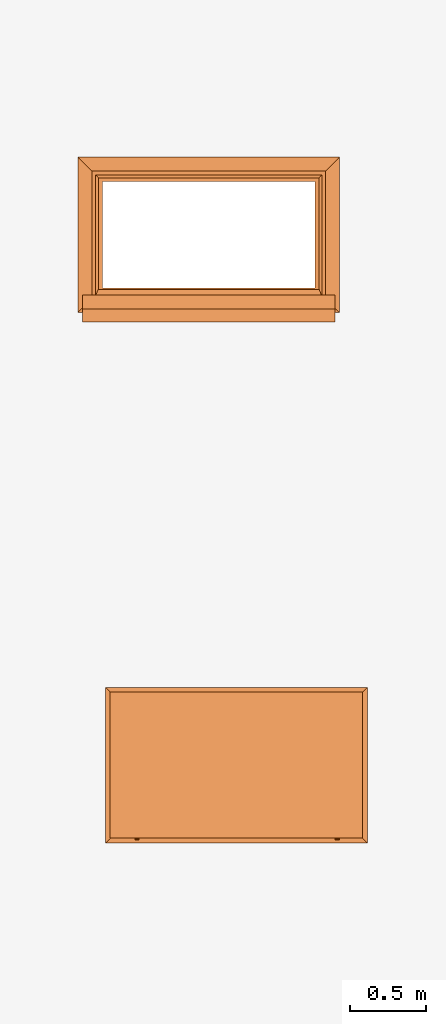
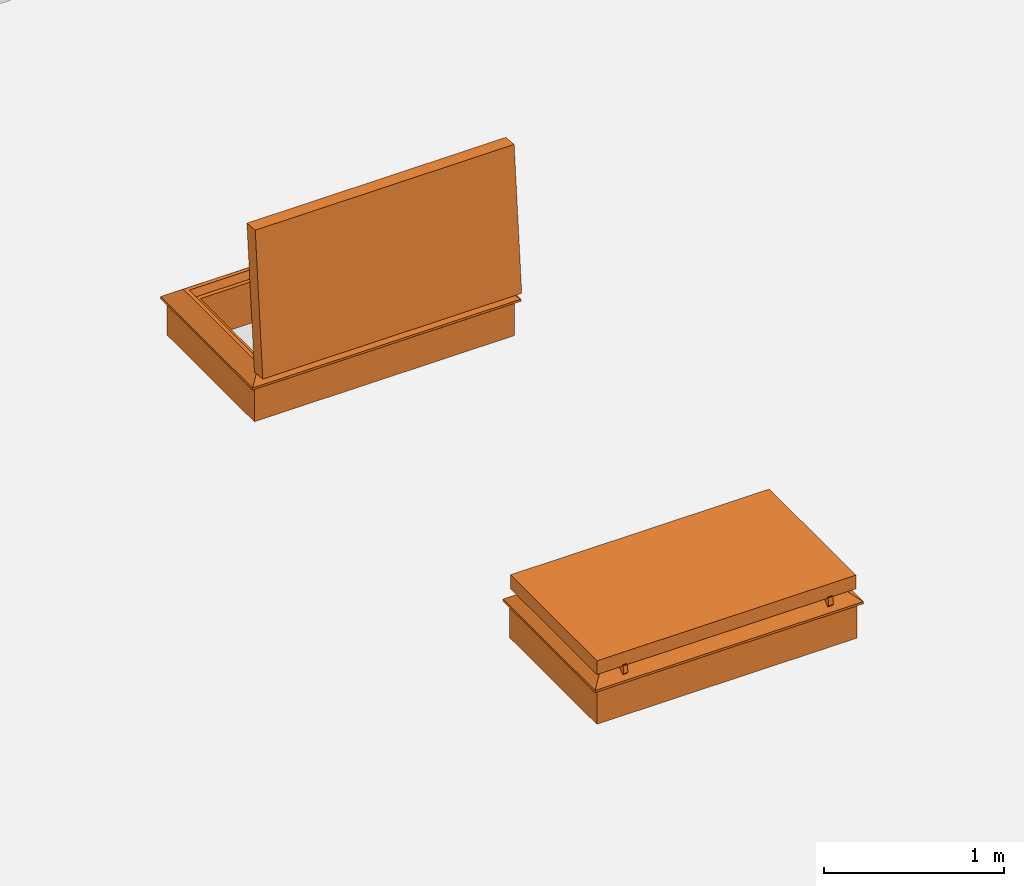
# One storey, part 22 of 28: 2 proxies.
"""IFC2X3 building model written with IfcOpenShell, lengths in millimetres."""

from ifc_helpers import new_model, entity, si_unit, converted_unit, derived_unit, direction, frame, origin, place, context, subcontext, project, spatial, faceted_brep, source, transform, mapped, type_object, type_shapes, element, save


model = new_model("IFC2X3")

# Units and contexts
model_context = context("Model", 3, precision=0.01, world=origin(), true_north=direction((6.12303176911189e-17, 1.0)))
body_context = subcontext(model_context, "Body", "Model", "MODEL_VIEW")
ifc_project = project(units=[si_unit("LENGTHUNIT", "METRE", prefix="MILLI"), si_unit("AREAUNIT", "SQUARE_METRE"), si_unit("VOLUMEUNIT", "CUBIC_METRE"), converted_unit("PLANEANGLEUNIT", "DEGREE", entity("IfcRatioMeasure", 0.0174532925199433), si_unit("PLANEANGLEUNIT", "RADIAN"), dimensions=[0, 0, 0, 0, 0, 0, 0]), si_unit("MASSUNIT", "GRAM", prefix="KILO"), derived_unit("MASSDENSITYUNIT", [(si_unit("MASSUNIT", "GRAM", prefix="KILO"), 1), (si_unit("LENGTHUNIT", "METRE"), -3)]), si_unit("TIMEUNIT", "SECOND"), si_unit("FREQUENCYUNIT", "HERTZ"), si_unit("THERMODYNAMICTEMPERATUREUNIT", "DEGREE_CELSIUS"), derived_unit("THERMALTRANSMITTANCEUNIT", [(si_unit("MASSUNIT", "GRAM", prefix="KILO"), 1), (si_unit("THERMODYNAMICTEMPERATUREUNIT", "KELVIN"), -1), (si_unit("TIMEUNIT", "SECOND"), -3)]), derived_unit("VOLUMETRICFLOWRATEUNIT", [(si_unit("LENGTHUNIT", "METRE"), 3), (si_unit("TIMEUNIT", "SECOND"), -1)]), si_unit("ELECTRICCURRENTUNIT", "AMPERE"), si_unit("ELECTRICVOLTAGEUNIT", "VOLT"), si_unit("POWERUNIT", "WATT"), si_unit("FORCEUNIT", "NEWTON", prefix="KILO"), si_unit("ILLUMINANCEUNIT", "LUX"), si_unit("LUMINOUSFLUXUNIT", "LUMEN"), si_unit("LUMINOUSINTENSITYUNIT", "CANDELA"), derived_unit("USERDEFINED", [(si_unit("MASSUNIT", "GRAM", prefix="KILO"), -1), (si_unit("LENGTHUNIT", "METRE"), -2), (si_unit("TIMEUNIT", "SECOND"), 3), (si_unit("LUMINOUSFLUXUNIT", "LUMEN"), 1)]), derived_unit("LINEARVELOCITYUNIT", [(si_unit("LENGTHUNIT", "METRE"), 1), (si_unit("TIMEUNIT", "SECOND"), -1)]), si_unit("PRESSUREUNIT", "PASCAL"), derived_unit("USERDEFINED", [(si_unit("LENGTHUNIT", "METRE"), -2), (si_unit("MASSUNIT", "GRAM", prefix="KILO"), 1), (si_unit("TIMEUNIT", "SECOND"), -2)])], contexts=[model_context])

# Site, building, storey
site_placement = place(None, origin())
site = spatial("IfcSite", under=ifc_project, at=site_placement, Name="Default", CompositionType="ELEMENT")
building_placement = place(site_placement, origin())
building = spatial("IfcBuilding", under=site, at=building_placement, CompositionType="ELEMENT")
storey_placement = place(building_placement, frame((0.0, 0.0, 4000.0)))
storey = spatial("IfcBuildingStorey", under=building, at=storey_placement, Name="Level 2", CompositionType="ELEMENT", Elevation=4000.0)

# Proxies
building_element_proxy_type_1 = type_object("IfcBuildingElementProxyType", Name="1400 x 700", PredefinedType="NOTDEFINED")
shared_shape_1 = source(origin(), body_context, "Body", "Brep", [
    faceted_brep([(-1499.57464776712, -351.993124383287, 340.652428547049), (-1499.57464776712, -350.619817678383, 341.518171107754), (-1499.57464776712, -349.079207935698, 342.030033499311), (-1499.57464776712, -347.460863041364, 342.158257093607), (-1499.57464776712, -345.858870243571, 341.89538723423), (-1499.57464776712, -344.366366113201, 341.256706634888), (-1499.57464776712, -343.070121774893, 340.279346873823), (-1499.57464776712, -342.045498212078, 339.020129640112), (-1499.57464776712, -341.352064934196, 337.552263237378), (-1499.57464776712, -341.030136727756, 335.961086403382), (-1499.57464776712, -341.098429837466, 334.339106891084), (-1499.57464776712, -340.635094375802, 329.90669213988), (-1499.57464776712, -337.979621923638, 326.327663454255), (-1499.57464776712, -304.11313780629, 313.826813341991), (-1499.57464776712, -350.965266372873, 276.345110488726), (-1499.57464776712, -360.90830222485, 288.773905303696), (-1499.57464776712, -361.276948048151, 290.251026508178), (-1499.57464776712, -361.242166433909, 291.7730570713), (-1499.57464776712, -353.932832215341, 338.078280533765), (-1499.57464776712, -353.119286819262, 339.483138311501), (-1472.20689636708, -337.979621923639, 326.327663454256), (-1472.20689636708, -304.113137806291, 313.826813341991), (-1472.20689636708, -350.965266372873, 276.345110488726), (-1472.20689636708, -360.90830222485, 288.773905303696), (-1489.14512741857, -360.908302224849, 288.773905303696), (-1488.70057290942, -361.276948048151, 290.251026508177), (-1472.20689636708, -361.276948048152, 290.251026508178), (-1472.20689636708, -361.242166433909, 291.7730570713), (-1489.14512741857, -361.242166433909, 291.7730570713), (-1472.20689636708, -353.932832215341, 338.078280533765), (-1472.20689636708, -353.119286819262, 339.483138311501), (-1472.20689636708, -351.993124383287, 340.652428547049), (-1472.20689636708, -350.619817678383, 341.518171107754), (-1472.20689636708, -349.079207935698, 342.030033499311), (-1472.20689636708, -347.460863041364, 342.158257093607), (-1472.20689636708, -345.858870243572, 341.89538723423), (-1472.20689636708, -343.070121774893, 340.279346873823), (-1472.20689636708, -344.366366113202, 341.256706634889), (-1472.20689636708, -342.045498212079, 339.020129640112), (-1472.20689636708, -341.352064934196, 337.552263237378), (-1472.20689636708, -341.030136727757, 335.961086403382), (-1472.20689636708, -341.098429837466, 334.339106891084), (-1472.20689636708, -340.635094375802, 329.90669213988)], [[[0, 1, 2, 3, 4, 5, 6, 7, 8, 9, 10, 11, 12, 13, 14, 15, 16, 17, 18, 19]], [[13, 12, 20, 21]], [[14, 13, 21, 22]], [[14, 22, 23, 24, 15]], [[25, 16, 15, 24, 23, 26]], [[25, 26, 27, 28, 17, 16]], [[18, 17, 28, 27, 29]], [[30, 19, 18, 29]], [[31, 0, 19, 30]], [[2, 1, 32, 33]], [[31, 32, 1, 0]], [[3, 2, 33, 34]], [[4, 3, 34, 35]], [[36, 6, 5, 37]], [[38, 7, 6, 36]], [[9, 8, 39, 40]], [[38, 39, 8, 7]], [[10, 9, 40, 41]], [[37, 5, 4, 35]], [[41, 42, 11, 10]], [[20, 12, 11, 42]], [[22, 21, 20, 42, 41, 40, 39, 38, 36, 37, 35, 34, 33, 32, 31, 30, 29, 27, 26, 23]]]),
    faceted_brep([(-182.337074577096, -304.113137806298, 313.826813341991), (-182.337074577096, -337.979621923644, 326.327663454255), (-152.350888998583, -337.979621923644, 326.327663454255), (-152.350888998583, -304.113137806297, 313.826813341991), (-182.337074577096, -350.96526637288, 276.345110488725), (-152.350888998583, -350.965266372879, 276.345110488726), (-182.337074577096, -360.908302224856, 288.773905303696), (-152.350888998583, -360.908302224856, 288.773905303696), (-161.478030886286, -360.908302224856, 288.773905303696), (-171.90755260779, -360.908302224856, 288.773905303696), (-152.350888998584, -361.276948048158, 290.251026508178), (-182.337074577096, -361.276948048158, 290.251026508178), (-162.780411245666, -361.242166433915, 291.7730570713), (-152.350888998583, -361.242166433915, 291.7730570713), (-173.209933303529, -361.242166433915, 291.7730570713), (-182.337074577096, -361.242166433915, 291.7730570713), (-166.692795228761, -361.28220209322, 290.300156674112), (-182.337074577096, -353.932832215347, 338.078280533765), (-152.350888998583, -353.932832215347, 338.078280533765), (-152.350888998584, -353.119286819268, 339.483138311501), (-182.337074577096, -353.119286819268, 339.483138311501), (-152.350888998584, -351.993124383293, 340.652428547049), (-182.337074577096, -351.993124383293, 340.652428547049), (-182.337074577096, -349.079207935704, 342.030033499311), (-182.337074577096, -350.619817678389, 341.518171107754), (-152.350888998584, -350.619817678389, 341.518171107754), (-152.350888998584, -349.079207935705, 342.030033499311), (-182.337074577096, -347.460863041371, 342.158257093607), (-152.350888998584, -347.460863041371, 342.158257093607), (-182.337074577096, -345.858870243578, 341.89538723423), (-152.350888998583, -345.858870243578, 341.89538723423), (-152.350888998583, -344.366366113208, 341.256706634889), (-182.337074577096, -344.366366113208, 341.256706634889), (-152.350888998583, -343.070121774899, 340.279346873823), (-182.337074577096, -343.070121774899, 340.279346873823), (-182.337074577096, -341.352064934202, 337.552263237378), (-182.337074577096, -342.045498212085, 339.020129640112), (-152.350888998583, -342.045498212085, 339.020129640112), (-152.350888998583, -341.352064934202, 337.552263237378), (-182.337074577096, -341.030136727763, 335.961086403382), (-152.350888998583, -341.030136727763, 335.961086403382), (-182.337074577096, -341.098429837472, 334.339106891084), (-152.350888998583, -341.098429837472, 334.339106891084), (-152.350888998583, -340.635094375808, 329.90669213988), (-182.337074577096, -340.635094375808, 329.90669213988)], [[[0, 1, 2, 3]], [[4, 0, 3, 5]], [[6, 4, 5, 7, 8, 9]], [[10, 8, 7]], [[11, 6, 9]], [[12, 10, 13]], [[14, 15, 11]], [[8, 10, 16]], [[16, 11, 9]], [[16, 9, 8]], [[14, 11, 16]], [[10, 12, 16]], [[12, 14, 16]], [[17, 15, 14, 12, 13, 18]], [[19, 20, 17, 18]], [[21, 22, 20, 19]], [[23, 24, 25, 26]], [[21, 25, 24, 22]], [[27, 23, 26, 28]], [[29, 27, 28, 30]], [[31, 32, 29, 30]], [[33, 34, 32, 31]], [[35, 36, 37, 38]], [[33, 37, 36, 34]], [[39, 35, 38, 40]], [[41, 39, 40, 42]], [[42, 43, 44, 41]], [[2, 1, 44, 43]], [[43, 42, 40, 38, 37, 33, 31, 30, 28, 26, 25, 21, 19, 18, 13, 10, 7, 5, 3, 2]], [[36, 35, 39, 41, 44, 1, 0, 4, 6, 11, 15, 17, 20, 22, 24, 23, 27, 29, 32, 34]]]),
    faceted_brep([(-61.2697623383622, 553.447095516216, 328.0), (30.7302376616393, 645.447095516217, 254.399999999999), (-1693.26976233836, 645.447095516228, 254.4), (-1601.26976233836, 553.447095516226, 328.0), (-105.269762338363, 509.447095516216, 282.0), (-85.7439207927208, 528.972937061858, 328.0), (-1576.795603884, 528.972937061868, 328.0), (-1557.26976233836, 509.447095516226, 282.0), (-131.269762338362, 483.447095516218, 0.0), (-131.269762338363, 483.447095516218, 282.0), (-1531.26976233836, 483.447095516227, 282.0), (-1531.26976233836, 483.447095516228, 0.0), (4.73023766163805, 619.447095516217, 240.0), (4.73023766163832, 619.447095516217, 0.0), (-1667.26976233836, 619.447095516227, 0.0), (-1667.26976233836, 619.447095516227, 240.0), (30.7302376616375, 645.447095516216, 240.0), (-1693.26976233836, 645.447095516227, 240.0), (-1693.26976233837, -378.552904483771, 254.4), (-1601.26976233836, -286.552904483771, 328.0), (-1576.79560388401, -262.078746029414, 328.0), (-1557.26976233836, -242.552904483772, 282.0), (-1531.26976233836, -216.552904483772, 282.0), (-1531.26976233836, -216.552904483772, 0.0), (-1667.26976233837, -352.552904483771, 0.0), (-1667.26976233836, -352.552904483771, 240.0), (-1693.26976233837, -378.552904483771, 240.0), (30.7302376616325, -378.552904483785, 254.4), (-61.2697623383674, -286.552904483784, 328.0), (-85.743920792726, -262.078746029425, 328.0), (-105.269762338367, -242.552904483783, 282.0), (-131.269762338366, -216.552904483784, 282.0), (-131.269762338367, -216.552904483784, 0.0), (4.73023766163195, -352.552904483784, 0.0), (4.73023766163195, -352.552904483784, 240.0), (30.7302376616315, -378.552904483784, 240.0)], [[[0, 1, 2, 3]], [[4, 5, 6, 7]], [[8, 9, 10, 11]], [[12, 13, 14, 15]], [[1, 16, 17, 2]], [[3, 2, 18, 19]], [[7, 6, 20, 21]], [[11, 10, 22, 23]], [[15, 14, 24, 25]], [[2, 17, 26, 18]], [[19, 18, 27, 28]], [[21, 20, 29, 30]], [[23, 22, 31, 32]], [[25, 24, 33, 34]], [[18, 26, 35, 27]], [[28, 27, 1, 0]], [[3, 19, 28, 0], [5, 29, 20, 6]], [[30, 29, 5, 4]], [[7, 21, 30, 4], [9, 31, 22, 10]], [[32, 31, 9, 8]], [[11, 23, 32, 8], [13, 33, 24, 14]], [[34, 33, 13, 12]], [[15, 25, 34, 12], [16, 35, 26, 17]], [[27, 35, 16, 1]]], outer=[[True], [True], [True], [True], [True], [True], [True], [True], [True], [True], [True], [True], [True], [True], [True], [True], [True, False], [True], [True, False], [True], [False, True], [True], [False, True], [True]]),
    faceted_brep([(-1534.26693391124, -367.286388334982, 1173.32805698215), (-1534.26693391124, -428.818342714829, 470.014600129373), (-128.272590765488, -428.81834271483, 470.014600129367), (-128.272590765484, -367.286388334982, 1173.32805698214), (-1534.26693391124, -228.416847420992, 1161.17854644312), (-128.272590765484, -228.416847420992, 1161.17854644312), (-128.272590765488, -289.94880180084, 457.865089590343), (-1534.26693391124, -289.94880180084, 457.86508959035)], [[[0, 1, 2, 3]], [[4, 5, 6, 7]], [[1, 0, 4, 7]], [[2, 1, 7, 6]], [[3, 2, 6, 5]], [[0, 3, 5, 4]]]),
    faceted_brep([(-128.272590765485, -228.416847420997, 1161.17854644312), (-128.272590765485, -367.286388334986, 1173.32805698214), (-1534.26693391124, -367.286388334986, 1173.32805698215), (-1534.26693391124, -228.416847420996, 1161.17854644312), (-85.2725907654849, -270.892584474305, 1208.05894492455), (-102.872590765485, -226.203091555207, 1186.48189177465), (-1559.66693391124, -226.203091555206, 1186.48189177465), (-1577.26693391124, -270.892584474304, 1208.05894492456), (0.727409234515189, -356.043297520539, 1301.83717303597), (0.727409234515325, -263.397190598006, 1293.73168896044), (-1663.26693391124, -263.397190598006, 1293.73168896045), (-1663.26693391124, -356.043297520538, 1301.83717303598), (-1534.26693391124, -428.818342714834, 470.014600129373), (-1534.26693391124, -289.948801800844, 457.865089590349), (-1559.66693391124, -292.162557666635, 432.561744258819), (-1577.26693391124, -339.919932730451, 419.072744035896), (-1663.26693391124, -347.41532660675, 333.400000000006), (-1663.26693391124, -440.061433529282, 341.505484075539), (-128.27259076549, -428.818342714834, 470.014600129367), (-128.27259076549, -289.948801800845, 457.865089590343), (-102.87259076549, -292.162557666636, 432.561744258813), (-85.2725907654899, -339.919932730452, 419.07274403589), (0.727409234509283, -347.41532660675, 333.399999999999), (0.727409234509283, -440.061433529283, 341.505484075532)], [[[0, 1, 2, 3]], [[4, 5, 6, 7]], [[8, 9, 10, 11]], [[3, 2, 12, 13]], [[7, 6, 14, 15]], [[11, 10, 16, 17]], [[13, 12, 18, 19]], [[15, 14, 20, 21]], [[17, 16, 22, 23]], [[19, 18, 1, 0]], [[3, 13, 19, 0], [5, 20, 14, 6]], [[21, 20, 5, 4]], [[7, 15, 21, 4], [9, 22, 16, 10]], [[23, 22, 9, 8]], [[1, 18, 12, 2], [11, 17, 23, 8]]], outer=[[True], [True], [True], [True], [True], [True], [True], [True], [True], [True], [False, True], [True], [False, True], [True], [False, True]]),
])
type_shapes(building_element_proxy_type_1, [shared_shape_1])
proxy_1_placement = place(storey_placement, frame((2611.54549069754, 1420.95034250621, 400.0)))
element("IfcBuildingElementProxy", 1, at=proxy_1_placement, inside=storey, type_object=building_element_proxy_type_1, Name="3_Topaccess_dakluik_1400x700_Staka:1400 x 700", ObjectType="1400 x 700", context=body_context, shape_type="MappedRepresentation", body=[
    mapped(shared_shape_1, transform((0.0, 0.0, 0.0), scale=1.0)),
])
building_element_proxy_type_2 = type_object("IfcBuildingElementProxyType", Name="1400 x 700", PredefinedType="NOTDEFINED")
shared_shape_2 = source(origin(), body_context, "Body", "Brep", [
    faceted_brep([(-1499.57464776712, -351.993124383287, 340.652428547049), (-1499.57464776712, -350.619817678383, 341.518171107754), (-1499.57464776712, -349.079207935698, 342.030033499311), (-1499.57464776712, -347.460863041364, 342.158257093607), (-1499.57464776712, -345.858870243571, 341.89538723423), (-1499.57464776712, -344.366366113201, 341.256706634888), (-1499.57464776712, -343.070121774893, 340.279346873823), (-1499.57464776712, -342.045498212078, 339.020129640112), (-1499.57464776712, -341.352064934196, 337.552263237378), (-1499.57464776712, -341.030136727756, 335.961086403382), (-1499.57464776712, -341.098429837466, 334.339106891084), (-1499.57464776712, -340.635094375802, 329.90669213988), (-1499.57464776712, -337.979621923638, 326.327663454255), (-1499.57464776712, -304.11313780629, 313.826813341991), (-1499.57464776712, -350.965266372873, 276.345110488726), (-1499.57464776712, -360.90830222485, 288.773905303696), (-1499.57464776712, -361.276948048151, 290.251026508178), (-1499.57464776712, -361.242166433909, 291.7730570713), (-1499.57464776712, -353.932832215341, 338.078280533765), (-1499.57464776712, -353.119286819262, 339.483138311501), (-1472.20689636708, -337.979621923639, 326.327663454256), (-1472.20689636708, -304.113137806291, 313.826813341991), (-1472.20689636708, -350.965266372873, 276.345110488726), (-1472.20689636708, -360.90830222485, 288.773905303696), (-1489.14512741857, -360.908302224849, 288.773905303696), (-1488.70057290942, -361.276948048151, 290.251026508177), (-1472.20689636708, -361.276948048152, 290.251026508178), (-1472.20689636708, -361.242166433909, 291.7730570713), (-1489.14512741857, -361.242166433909, 291.7730570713), (-1472.20689636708, -353.932832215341, 338.078280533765), (-1472.20689636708, -353.119286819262, 339.483138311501), (-1472.20689636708, -351.993124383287, 340.652428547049), (-1472.20689636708, -350.619817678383, 341.518171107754), (-1472.20689636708, -349.079207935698, 342.030033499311), (-1472.20689636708, -347.460863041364, 342.158257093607), (-1472.20689636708, -345.858870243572, 341.89538723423), (-1472.20689636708, -343.070121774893, 340.279346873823), (-1472.20689636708, -344.366366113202, 341.256706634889), (-1472.20689636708, -342.045498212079, 339.020129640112), (-1472.20689636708, -341.352064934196, 337.552263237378), (-1472.20689636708, -341.030136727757, 335.961086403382), (-1472.20689636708, -341.098429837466, 334.339106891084), (-1472.20689636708, -340.635094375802, 329.90669213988)], [[[0, 1, 2, 3, 4, 5, 6, 7, 8, 9, 10, 11, 12, 13, 14, 15, 16, 17, 18, 19]], [[13, 12, 20, 21]], [[14, 13, 21, 22]], [[14, 22, 23, 24, 15]], [[25, 16, 15, 24, 23, 26]], [[25, 26, 27, 28, 17, 16]], [[18, 17, 28, 27, 29]], [[30, 19, 18, 29]], [[31, 0, 19, 30]], [[2, 1, 32, 33]], [[31, 32, 1, 0]], [[3, 2, 33, 34]], [[4, 3, 34, 35]], [[36, 6, 5, 37]], [[38, 7, 6, 36]], [[9, 8, 39, 40]], [[38, 39, 8, 7]], [[10, 9, 40, 41]], [[37, 5, 4, 35]], [[41, 42, 11, 10]], [[20, 12, 11, 42]], [[22, 21, 20, 42, 41, 40, 39, 38, 36, 37, 35, 34, 33, 32, 31, 30, 29, 27, 26, 23]]]),
    faceted_brep([(-182.337074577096, -304.113137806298, 313.826813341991), (-182.337074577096, -337.979621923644, 326.327663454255), (-152.350888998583, -337.979621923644, 326.327663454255), (-152.350888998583, -304.113137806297, 313.826813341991), (-182.337074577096, -350.96526637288, 276.345110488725), (-152.350888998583, -350.965266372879, 276.345110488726), (-182.337074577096, -360.908302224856, 288.773905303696), (-152.350888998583, -360.908302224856, 288.773905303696), (-161.478030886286, -360.908302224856, 288.773905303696), (-171.90755260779, -360.908302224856, 288.773905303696), (-152.350888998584, -361.276948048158, 290.251026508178), (-182.337074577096, -361.276948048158, 290.251026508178), (-162.780411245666, -361.242166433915, 291.7730570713), (-152.350888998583, -361.242166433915, 291.7730570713), (-173.209933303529, -361.242166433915, 291.7730570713), (-182.337074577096, -361.242166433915, 291.7730570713), (-166.692795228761, -361.28220209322, 290.300156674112), (-182.337074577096, -353.932832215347, 338.078280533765), (-152.350888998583, -353.932832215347, 338.078280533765), (-152.350888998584, -353.119286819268, 339.483138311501), (-182.337074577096, -353.119286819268, 339.483138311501), (-152.350888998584, -351.993124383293, 340.652428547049), (-182.337074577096, -351.993124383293, 340.652428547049), (-182.337074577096, -349.079207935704, 342.030033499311), (-182.337074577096, -350.619817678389, 341.518171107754), (-152.350888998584, -350.619817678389, 341.518171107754), (-152.350888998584, -349.079207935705, 342.030033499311), (-182.337074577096, -347.460863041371, 342.158257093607), (-152.350888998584, -347.460863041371, 342.158257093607), (-182.337074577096, -345.858870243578, 341.89538723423), (-152.350888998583, -345.858870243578, 341.89538723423), (-152.350888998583, -344.366366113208, 341.256706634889), (-182.337074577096, -344.366366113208, 341.256706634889), (-152.350888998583, -343.070121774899, 340.279346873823), (-182.337074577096, -343.070121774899, 340.279346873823), (-182.337074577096, -341.352064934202, 337.552263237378), (-182.337074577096, -342.045498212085, 339.020129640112), (-152.350888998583, -342.045498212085, 339.020129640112), (-152.350888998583, -341.352064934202, 337.552263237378), (-182.337074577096, -341.030136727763, 335.961086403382), (-152.350888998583, -341.030136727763, 335.961086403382), (-182.337074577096, -341.098429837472, 334.339106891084), (-152.350888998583, -341.098429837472, 334.339106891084), (-152.350888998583, -340.635094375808, 329.90669213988), (-182.337074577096, -340.635094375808, 329.90669213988)], [[[0, 1, 2, 3]], [[4, 0, 3, 5]], [[6, 4, 5, 7, 8, 9]], [[10, 8, 7]], [[11, 6, 9]], [[12, 10, 13]], [[14, 15, 11]], [[8, 10, 16]], [[16, 11, 9]], [[16, 9, 8]], [[14, 11, 16]], [[10, 12, 16]], [[12, 14, 16]], [[17, 15, 14, 12, 13, 18]], [[19, 20, 17, 18]], [[21, 22, 20, 19]], [[23, 24, 25, 26]], [[21, 25, 24, 22]], [[27, 23, 26, 28]], [[29, 27, 28, 30]], [[31, 32, 29, 30]], [[33, 34, 32, 31]], [[35, 36, 37, 38]], [[33, 37, 36, 34]], [[39, 35, 38, 40]], [[41, 39, 40, 42]], [[42, 43, 44, 41]], [[2, 1, 44, 43]], [[43, 42, 40, 38, 37, 33, 31, 30, 28, 26, 25, 21, 19, 18, 13, 10, 7, 5, 3, 2]], [[36, 35, 39, 41, 44, 1, 0, 4, 6, 11, 15, 17, 20, 22, 24, 23, 27, 29, 32, 34]]]),
    faceted_brep([(-61.2697623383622, 553.447095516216, 328.0), (30.7302376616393, 645.447095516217, 254.399999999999), (-1693.26976233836, 645.447095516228, 254.4), (-1601.26976233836, 553.447095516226, 328.0), (-105.269762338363, 509.447095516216, 282.0), (-85.7439207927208, 528.972937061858, 328.0), (-1576.795603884, 528.972937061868, 328.0), (-1557.26976233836, 509.447095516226, 282.0), (-131.269762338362, 483.447095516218, 0.0), (-131.269762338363, 483.447095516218, 282.0), (-1531.26976233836, 483.447095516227, 282.0), (-1531.26976233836, 483.447095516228, 0.0), (4.73023766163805, 619.447095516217, 240.0), (4.73023766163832, 619.447095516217, 0.0), (-1667.26976233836, 619.447095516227, 0.0), (-1667.26976233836, 619.447095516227, 240.0), (30.7302376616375, 645.447095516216, 240.0), (-1693.26976233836, 645.447095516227, 240.0), (-1693.26976233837, -378.552904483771, 254.4), (-1601.26976233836, -286.552904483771, 328.0), (-1576.79560388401, -262.078746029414, 328.0), (-1557.26976233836, -242.552904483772, 282.0), (-1531.26976233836, -216.552904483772, 282.0), (-1531.26976233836, -216.552904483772, 0.0), (-1667.26976233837, -352.552904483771, 0.0), (-1667.26976233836, -352.552904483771, 240.0), (-1693.26976233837, -378.552904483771, 240.0), (30.7302376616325, -378.552904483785, 254.4), (-61.2697623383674, -286.552904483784, 328.0), (-85.743920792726, -262.078746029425, 328.0), (-105.269762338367, -242.552904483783, 282.0), (-131.269762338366, -216.552904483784, 282.0), (-131.269762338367, -216.552904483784, 0.0), (4.73023766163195, -352.552904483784, 0.0), (4.73023766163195, -352.552904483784, 240.0), (30.7302376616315, -378.552904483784, 240.0)], [[[0, 1, 2, 3]], [[4, 5, 6, 7]], [[8, 9, 10, 11]], [[12, 13, 14, 15]], [[1, 16, 17, 2]], [[3, 2, 18, 19]], [[7, 6, 20, 21]], [[11, 10, 22, 23]], [[15, 14, 24, 25]], [[2, 17, 26, 18]], [[19, 18, 27, 28]], [[21, 20, 29, 30]], [[23, 22, 31, 32]], [[25, 24, 33, 34]], [[18, 26, 35, 27]], [[28, 27, 1, 0]], [[3, 19, 28, 0], [5, 29, 20, 6]], [[30, 29, 5, 4]], [[7, 21, 30, 4], [9, 31, 22, 10]], [[32, 31, 9, 8]], [[11, 23, 32, 8], [13, 33, 24, 14]], [[34, 33, 13, 12]], [[15, 25, 34, 12], [16, 35, 26, 17]], [[27, 35, 16, 1]]], outer=[[True], [True], [True], [True], [True], [True], [True], [True], [True], [True], [True], [True], [True], [True], [True], [True], [True, False], [True], [True, False], [True], [False, True], [True], [False, True], [True]]),
    faceted_brep([(-1534.26693391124, 487.58467339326, 426.399999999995), (-1534.26693391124, -218.41532660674, 426.399999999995), (-128.272590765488, -218.415326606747, 426.399999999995), (-128.272590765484, 487.584673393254, 426.399999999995), (-1534.26693391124, 487.58467339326, 287.0), (-128.272590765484, 487.584673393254, 287.0), (-128.272590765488, -218.415326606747, 287.0), (-1534.26693391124, -218.41532660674, 287.0)], [[[0, 1, 2, 3]], [[4, 5, 6, 7]], [[1, 0, 4, 7]], [[2, 1, 7, 6]], [[3, 2, 6, 5]], [[0, 3, 5, 4]]]),
    faceted_brep([(-128.272590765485, 487.584673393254, 287.0), (-128.272590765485, 487.584673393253, 426.399999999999), (-1534.26693391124, 487.58467339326, 426.399999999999), (-1534.26693391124, 487.58467339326, 287.0), (-85.2725907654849, 530.584673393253, 333.399999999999), (-102.872590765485, 512.984673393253, 287.0), (-1559.66693391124, 512.98467339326, 287.0), (-1577.26693391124, 530.58467339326, 333.399999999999), (0.727409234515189, 616.584673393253, 426.399999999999), (0.727409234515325, 616.584673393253, 333.399999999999), (-1663.26693391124, 616.58467339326, 333.399999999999), (-1663.26693391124, 616.58467339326, 426.399999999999), (-1534.26693391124, -218.415326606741, 426.399999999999), (-1534.26693391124, -218.415326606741, 287.0), (-1559.66693391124, -243.815326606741, 287.0), (-1577.26693391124, -261.415326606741, 333.399999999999), (-1663.26693391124, -347.41532660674, 333.399999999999), (-1663.26693391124, -347.41532660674, 426.399999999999), (-128.27259076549, -218.415326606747, 426.399999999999), (-128.27259076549, -218.415326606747, 287.0), (-102.87259076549, -243.815326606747, 287.0), (-85.2725907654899, -261.415326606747, 333.399999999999), (0.727409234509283, -347.415326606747, 333.399999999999), (0.727409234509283, -347.415326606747, 426.399999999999)], [[[0, 1, 2, 3]], [[4, 5, 6, 7]], [[8, 9, 10, 11]], [[3, 2, 12, 13]], [[7, 6, 14, 15]], [[11, 10, 16, 17]], [[13, 12, 18, 19]], [[15, 14, 20, 21]], [[17, 16, 22, 23]], [[19, 18, 1, 0]], [[3, 13, 19, 0], [5, 20, 14, 6]], [[21, 20, 5, 4]], [[7, 15, 21, 4], [9, 22, 16, 10]], [[23, 22, 9, 8]], [[1, 18, 12, 2], [11, 17, 23, 8]]], outer=[[True], [True], [True], [True], [True], [True], [True], [True], [True], [True], [False, True], [True], [False, True], [True], [False, True]]),
])
type_shapes(building_element_proxy_type_2, [shared_shape_2])
proxy_2_placement = place(storey_placement, frame((2794.72133754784, -2074.25302913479, 400.0)))
element("IfcBuildingElementProxy", 2, at=proxy_2_placement, inside=storey, type_object=building_element_proxy_type_2, Name="3_Topaccess_dakluik_1400x700_Staka:1400 x 700", ObjectType="1400 x 700", context=body_context, shape_type="MappedRepresentation", body=[
    mapped(shared_shape_2, transform((0.0, 0.0, 0.0), scale=1.0)),
])

save(model, "model.ifc")
